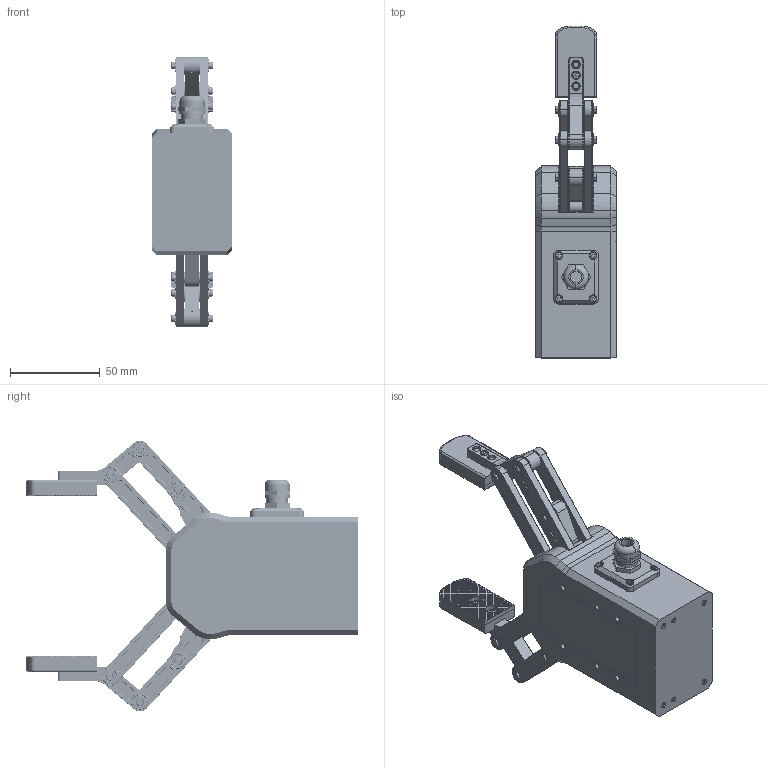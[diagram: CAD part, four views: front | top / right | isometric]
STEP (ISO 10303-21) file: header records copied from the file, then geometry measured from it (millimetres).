
FILE_DESCRIPTION (( 'STEP AP214' ), '1' );
FILE_NAME ('CTAG2F90-00 謗硌す雄忒-20240619俋楷.STEP', '2024-12-13T09:05:21', ( '' ), ( '' ), 'SwSTEP 2.0', 'SolidWorks 2016', '' );
FILE_SCHEMA (( 'AUTOMOTIVE_DESIGN' ));
Length unit declared in the file: millimetre
Products named in the file (1): CTAG2F90-00 謗硌す雄忒-20240619俋楷
Bounding box: 45 x 185.01 x 151 mm (x, y, z)
Surface area: 82651.7 mm2 (no closed solid volume)
Topology: 0 solids, 69 shells, 5067 faces, 12953 edges, 8147 vertices
Faces by surface type: cylinder 2577, plane 1733, cone 408, bspline 212, torus 137
Entity records: 215969 total; most frequent: CARTESIAN_POINT 103513, ORIENTED_EDGE 25830, DIRECTION 19194, EDGE_CURVE 12923, VERTEX_POINT 8158, AXIS2_PLACEMENT_3D 6927, EDGE_LOOP 5381, VECTOR 5340
